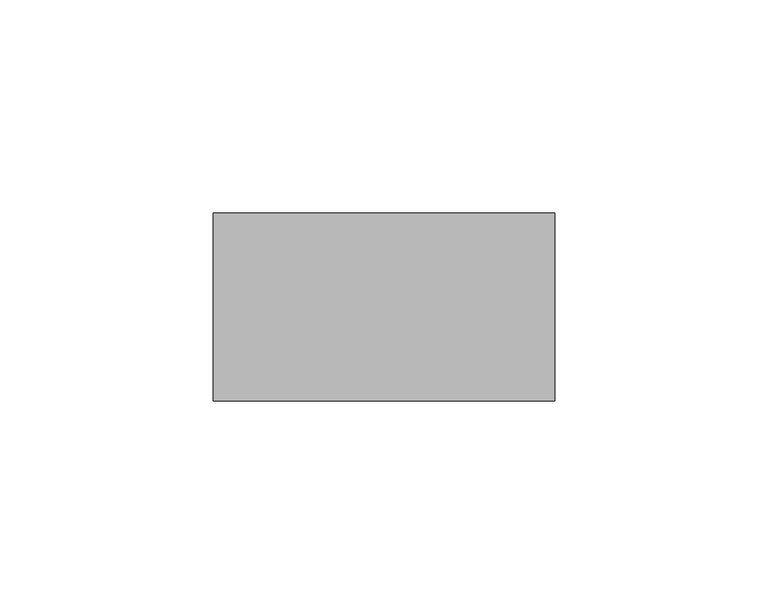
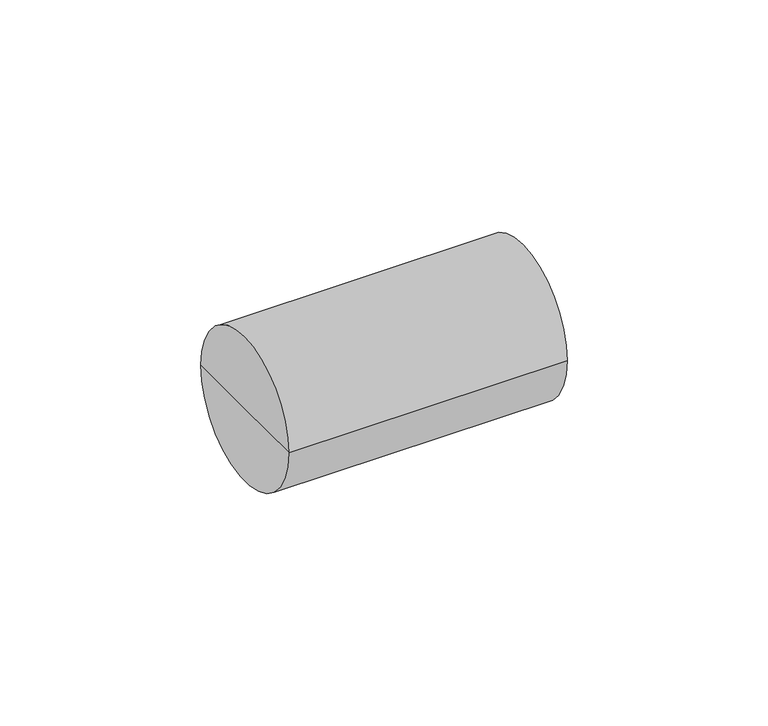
"""IFC4 building model written with IfcOpenShell, lengths in millimetres: cable carrier fitting geometry, Муфта прямая труба-труба армированная IP65 GA : CTA10D-GA40-K41-015."""

import ifcopenshell
import ifcopenshell.guid

model = None  # the IFC model being written
_history = None  # IfcOwnerHistory: only IFC2X3 demands one
_inside = {}  # id of a spatial element -> (the spatial element, [elements in it])
_under = {}  # id of a project, library or spatial element -> (it, [spatial elements below it])
_declared = {}  # id of a project -> (the project, [libraries it declares])
_typed = {}  # id of a type object -> (the type object, [elements of that type])
_made_of = {}  # id of a material, layer set ... -> (it, [elements and type objects made of it])


def new_model(schema):
    """Start an empty IFC model of exactly this schema.

    Asked for "IFC4X3", IfcOpenShell would pick the latest addendum, in which some entities
    have other attributes; the version numbers below select the first issue.
    IFC2X3 requires an IfcOwnerHistory on every rooted entity: one is made here for all.
    """
    global model, _history
    if schema == "IFC4X3":
        model = ifcopenshell.file(schema_version=(4, 3, 0, 0))
    else:
        model = ifcopenshell.file(schema=schema)
    _inside.clear()
    _under.clear()
    _declared.clear()
    _typed.clear()
    _made_of.clear()
    _history = None
    if model.schema == "IFC2X3":
        org = make("IfcOrganization", Name="unknown")
        user = make(
            "IfcPersonAndOrganization",
            ThePerson=make("IfcPerson", FamilyName="unknown"),
            TheOrganization=org,
        )
        app = make(
            "IfcApplication",
            ApplicationDeveloper=org,
            Version="unknown",
            ApplicationFullName="unknown",
            ApplicationIdentifier="unknown",
        )
        _history = make(
            "IfcOwnerHistory",
            OwningUser=user,
            OwningApplication=app,
            ChangeAction="ADDED",
            CreationDate=0,
        )
    return model


def make(cls, **values):
    """One entity of the class cls with the attributes given. An attribute that is None is left unset."""
    return model.create_entity(
        cls, **{name: value for name, value in values.items() if value is not None}
    )


def rooted(cls, **values):
    """An entity with a GlobalId (a new one), such as an element, a storey or a relation."""
    return make(cls, GlobalId=ifcopenshell.guid.new(), OwnerHistory=_history, **values)


def si_unit(unit_type, name, prefix=None):
    """IfcSIUnit, for example si_unit("LENGTHUNIT", "METRE", prefix="MILLI")."""
    return make("IfcSIUnit", UnitType=unit_type, Prefix=prefix, Name=name)


def assignment(units):
    """IfcUnitAssignment: the units of a project."""
    return None if units is None else make("IfcUnitAssignment", Units=units)


def point(xyz):
    """IfcCartesianPoint."""
    return None if xyz is None else make("IfcCartesianPoint", Coordinates=xyz)


def direction(xyz):
    """IfcDirection."""
    return None if xyz is None else make("IfcDirection", DirectionRatios=xyz)


def frame(location, z_axis=None, x_axis=None):
    """IfcAxis2Placement3D, a coordinate frame: its origin and axes. An axis left out is left unset."""
    return make(
        "IfcAxis2Placement3D",
        Location=point(location),
        Axis=direction(z_axis),
        RefDirection=direction(x_axis),
    )


def origin():
    """The frame at (0, 0, 0) with its axes left unset."""
    return frame((0.0, 0.0, 0.0))


def place(relative_to, where):
    """IfcLocalPlacement: puts the frame where relative to a parent placement (None: the world)."""
    return make(
        "IfcLocalPlacement", PlacementRelTo=relative_to, RelativePlacement=where
    )


def context(
    kind, dimensions, precision=None, world=None, true_north=None, identifier=None
):
    """IfcGeometricRepresentationContext, for example the 3D "Model" context."""
    return make(
        "IfcGeometricRepresentationContext",
        ContextIdentifier=identifier,
        ContextType=kind,
        CoordinateSpaceDimension=dimensions,
        Precision=precision,
        WorldCoordinateSystem=world,
        TrueNorth=true_north,
    )


def project(units=None, contexts=None):
    """IfcProject with its units and contexts."""
    return rooted(
        "IfcProject",
        Name="project",
        RepresentationContexts=contexts,
        UnitsInContext=assignment(units),
    )


def spatial(cls, under=None, at=None, **own):
    """A site, building, storey or space (cls), placed at a placement, below another one or the project."""
    s = rooted(cls, ObjectPlacement=at, **own)
    if under is not None:
        _under.setdefault(under.id(), (under, []))[1].append(s)
    return s


def circle_curve(where, radius):
    """IfcCircle in the frame where."""
    return make("IfcCircle", Position=where, Radius=radius)


def shape(context_of_items, identifier, shape_type, items):
    """IfcShapeRepresentation: the items that make up one representation, for example the "Body"."""
    return make(
        "IfcShapeRepresentation",
        ContextOfItems=context_of_items,
        RepresentationIdentifier=identifier,
        RepresentationType=shape_type,
        Items=items,
    )


def source(mapping_origin, context_of_items, identifier, shape_type, items):
    """IfcRepresentationMap: a shape defined once, which mapped items show again and again."""
    return make(
        "IfcRepresentationMap",
        MappingOrigin=mapping_origin,
        MappedRepresentation=shape(context_of_items, identifier, shape_type, items),
    )


def transform(
    local_origin,
    x_axis=None,
    y_axis=None,
    z_axis=None,
    scale=None,
    scale2=None,
    scale3=None,
    uniform=True,
):
    """IfcCartesianTransformationOperator3D, or its non-uniform kind. x_axis, y_axis, z_axis: its Axis1, 2, 3."""
    if uniform:
        return make(
            "IfcCartesianTransformationOperator3D",
            Axis1=direction(x_axis),
            Axis2=direction(y_axis),
            LocalOrigin=point(local_origin),
            Scale=scale,
            Axis3=direction(z_axis),
        )
    return make(
        "IfcCartesianTransformationOperator3DnonUniform",
        Axis1=direction(x_axis),
        Axis2=direction(y_axis),
        LocalOrigin=point(local_origin),
        Scale=scale,
        Axis3=direction(z_axis),
        Scale2=scale2,
        Scale3=scale3,
    )


def mapped(mapping_source, mapping_target):
    """IfcMappedItem: shows the shape of a source again, moved by a transform."""
    return make(
        "IfcMappedItem", MappingSource=mapping_source, MappingTarget=mapping_target
    )


def made_of(thing, what):
    """Note that an element or type object is made of a material, layer set ...; save() writes the relation."""
    if what is not None:
        _made_of.setdefault(what.id(), (what, []))[1].append(thing)
    return thing


def element(
    cls,
    number,
    at=None,
    inside=None,
    cuts=None,
    type_object=None,
    material=None,
    context=None,
    identifier="Body",
    shape_type=None,
    held_by="IfcProductDefinitionShape",
    body=None,
    shapes=None,
    **own,
):
    """One element of the class cls, such as IfcWall. Its Tag is "e" and its number.

    at: its placement. inside: the storey or other place that contains it. cuts: it is an
    opening in that element (IfcRelVoidsElement). A single representation is given by context,
    identifier, shape_type and body (its items); several are given by shapes. held_by: the class
    of the entity that holds the representations. save() writes the other relations.
    """
    e = rooted(cls, Tag="e%d" % number, ObjectPlacement=at, **own)
    if body is not None:
        shapes = [shape(context, identifier, shape_type, body)]
    if shapes is not None:
        e.Representation = make(held_by, Representations=shapes)
    if inside is not None:
        _inside.setdefault(inside.id(), (inside, []))[1].append(e)
    if cuts is not None:
        rooted(
            "IfcRelVoidsElement", RelatingBuildingElement=cuts, RelatedOpeningElement=e
        )
    if type_object is not None:
        _typed.setdefault(type_object.id(), (type_object, []))[1].append(e)
    return made_of(e, material)


def aggregate(whole, parts):
    """IfcRelAggregates: a whole, such as a stair, and the parts it consists of."""
    return rooted("IfcRelAggregates", RelatingObject=whole, RelatedObjects=parts)


def save(model, path):
    """Write the relations noted so far, then the file.

    IfcRelAggregates (storeys below a building ...), IfcRelContainedInSpatialStructure (elements
    in a storey), IfcRelDefinesByType, IfcRelAssociatesMaterial and IfcRelDeclares: one each for
    every whole, place, type object, material and project.
    """
    for whole, parts in _under.values():
        aggregate(whole, parts)
    for where, things in _inside.values():
        rooted(
            "IfcRelContainedInSpatialStructure",
            RelatedElements=things,
            RelatingStructure=where,
        )
    for kind, things in _typed.values():
        rooted("IfcRelDefinesByType", RelatedObjects=things, RelatingType=kind)
    for what, things in _made_of.values():
        rooted("IfcRelAssociatesMaterial", RelatedObjects=things, RelatingMaterial=what)
    for by, libraries in _declared.values():
        rooted("IfcRelDeclares", RelatingContext=by, RelatedDefinitions=libraries)
    model.write(path)


def plane_surface(at):
    """IfcPlane: the flat surface through the origin of the frame at, square to its z axis."""
    return make("IfcPlane", Position=at)


def cylinder_surface(at, radius):
    """IfcCylindricalSurface: all points at the distance radius from the z axis of the frame at."""
    return make("IfcCylindricalSurface", Position=at, Radius=radius)


def advanced_brep(points, edges, surfaces, faces):
    """IfcAdvancedBrep: a solid bounded by faces that lie on surfaces and meet in shared edges.

    An edge is (start, end): straight between two places in points (the first is 0);
    or (start, end, curve); or (start, end, curve, False) where it runs against its curve.
    A face is (place in surfaces, loops), or (place, loops, False) where it looks against
    its surface's normal. A loop lists edges by number (the first is 1), with a minus sign
    where the edge is run from its end to its start. The first loop is the outer one.
    """
    corners = [point(p) for p in points]
    vertices = [make("IfcVertexPoint", VertexGeometry=c) for c in corners]
    made = []
    for start, end, *more in edges:
        made.append(
            make(
                "IfcEdgeCurve",
                EdgeStart=vertices[start],
                EdgeEnd=vertices[end],
                EdgeGeometry=more[0] if more else make("IfcPolyline", Points=[corners[start], corners[end]]),
                SameSense=more[1] if len(more) > 1 else True,
            )
        )
    hull = []
    for where, loops, *sense in faces:
        bounds = []
        for j, loop in enumerate(loops):
            ring = [make("IfcOrientedEdge", EdgeElement=made[abs(k) - 1], Orientation=k > 0) for k in loop]
            bounds.append(
                make(
                    "IfcFaceOuterBound" if j == 0 else "IfcFaceBound",
                    Bound=make("IfcEdgeLoop", EdgeList=ring),
                    Orientation=True,
                )
            )
        hull.append(make("IfcAdvancedFace", Bounds=bounds, FaceSurface=surfaces[where], SameSense=sense[0] if sense else True))
    return make("IfcAdvancedBrep", Outer=make("IfcClosedShell", CfsFaces=hull))


def cable_carrier_fitting_6d3d2407(model_context):
    return source(origin(), model_context, "Body", "AdvancedBrep", [
        advanced_brep(
        [(-40.0, -22.0, 0.0), (-40.0, 22.0, 0.0), (40.0, 22.0, 0.0), (40.0, -22.0, 0.0), (-40.0, 0.0, 0.0), (40.0, 0.0, 0.0)],
        [
            (0, 1, circle_curve(frame((-40.0, 0.0, 0.0), z_axis=(1.0, 0.0, 0.0), x_axis=(0.0, 1.0, 0.0)), 22.0)),
            (1, 2),
            (2, 3, circle_curve(frame((40.0, 0.0, 0.0), z_axis=(-1.0, 0.0, 0.0), x_axis=(0.0, 1.0, 0.0)), 22.0)),
            (3, 0),
            (1, 0, circle_curve(frame((-40.0, 0.0, 0.0), z_axis=(1.0, 0.0, 0.0), x_axis=(0.0, 1.0, 0.0)), 22.0)),
            (3, 2, circle_curve(frame((40.0, 0.0, 0.0), z_axis=(-1.0, 0.0, 0.0), x_axis=(0.0, 1.0, 0.0)), 22.0)),
            (4, 1),
            (0, 4),
            (2, 5),
            (5, 3),
        ],
        [
            cylinder_surface(frame((1965.0, 0.0, 0.0), z_axis=(-1.0, 0.0, 0.0), x_axis=(0.0, 1.0, 0.0)), 22.0),
            plane_surface(frame((-40.0, 0.0, 0.0), z_axis=(-1.0, 0.0, 0.0), x_axis=(0.0, 1.0, 0.0))),
            plane_surface(frame((40.0, 0.0, 0.0), z_axis=(1.0, 0.0, 0.0), x_axis=(0.0, 1.0, 0.0))),
        ],
        [
            (0, [[1, 2, 3, 4]]),
            (0, [[5, -4, 6, -2]]),
            (1, [[7, -1, 8]]),
            (1, [[-8, -5, -7]]),
            (2, [[-3, 9, 10]]),
            (2, [[-6, -10, -9]]),
        ],
    ),
    ])


if __name__ == "__main__":
    model = new_model("IFC4")
    model_context = context("Model", 3, world=origin())
    ifc_project = project(units=[si_unit("LENGTHUNIT", "METRE", prefix="MILLI")], contexts=[model_context])
    site = spatial("IfcSite", under=ifc_project)
    building = spatial("IfcBuilding", under=site)
    placement = place(None, origin())
    cable_carrier_fitting_shape = cable_carrier_fitting_6d3d2407(model_context)
    element("IfcCableCarrierFitting", 1, ObjectType="Муфта прямая труба-труба армированная IP65 GA : CTA10D-GA40-K41-015", at=placement, inside=building, context=model_context, shape_type="MappedRepresentation", body=[
        mapped(cable_carrier_fitting_shape, transform((0.0, 0.0, 0.0), x_axis=(1.0, 0.0, 0.0), y_axis=(0.0, 1.0, 0.0), z_axis=(0.0, 0.0, 1.0))),
    ])
    save(model, "model.ifc")
